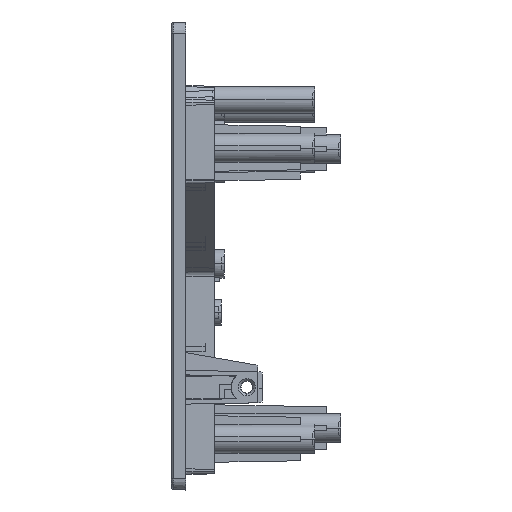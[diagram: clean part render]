
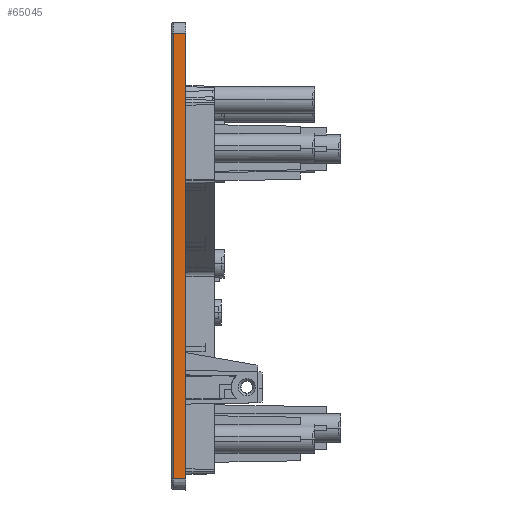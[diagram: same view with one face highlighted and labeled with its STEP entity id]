
A CAD part, left-side view. The second image highlights one B-rep face of the part: STEP entity #65045.
In plain terms, the highlighted planar face has unit normal (-0.999, 0.035, 0).
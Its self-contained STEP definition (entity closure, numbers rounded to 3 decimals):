
#5351=DIRECTION('',(0.,0.,1.));
#5352=VECTOR('',#5351,92.658);
#5353=CARTESIAN_POINT('',(-390.186,27.,-46.529));
#5354=LINE('',#5353,#5352);
#23429=DIRECTION('',(-0.035,-0.999,0.));
#23430=VECTOR('',#23429,2.519);
#23431=CARTESIAN_POINT('',(-390.098,29.517,
-46.529));
#23432=LINE('',#23431,#23430);
#23433=DIRECTION('',(0.,0.,1.));
#23434=VECTOR('',#23433,92.658);
#23435=CARTESIAN_POINT('',(-390.098,29.517,
-46.529));
#23436=LINE('',#23435,#23434);
#23437=DIRECTION('',(0.035,0.999,0.));
#23438=VECTOR('',#23437,2.519);
#23439=CARTESIAN_POINT('',(-390.186,27.,46.129));
#23440=LINE('',#23439,#23438);
#28151=CARTESIAN_POINT('',(-390.186,27.,46.129));
#28152=VERTEX_POINT('',#28151);
#28213=CARTESIAN_POINT('',(-390.098,29.517,
46.129));
#28215=VERTEX_POINT('',#28213);
#29100=CARTESIAN_POINT('',(-390.098,29.517,
-46.529));
#29102=VERTEX_POINT('',#29100);
#29103=CARTESIAN_POINT('',(-390.186,27.,-46.529));
#29104=VERTEX_POINT('',#29103);
#65032=CARTESIAN_POINT('',(-390.186,27.,46.129));
#65033=DIRECTION('',(-0.999,0.035,0.));
#65034=DIRECTION('',(0.035,0.999,0.));
#65035=AXIS2_PLACEMENT_3D('',#65032,#65033,#65034);
#65036=PLANE('',#65035);
#65037=ORIENTED_EDGE('',*,*,#33950,.F.);
#65039=ORIENTED_EDGE('',*,*,#65038,.F.);
#65040=ORIENTED_EDGE('',*,*,#65023,.T.);
#65042=ORIENTED_EDGE('',*,*,#65041,.F.);
#65043=EDGE_LOOP('',(#65037,#65039,#65040,#65042));
#65044=FACE_OUTER_BOUND('',#65043,.F.);
#65045=ADVANCED_FACE('',(#65044),#65036,.T.);
#33950=EDGE_CURVE('',#29104,#28152,#5354,.T.);
#65023=EDGE_CURVE('',#29102,#28215,#23436,.T.);
#65038=EDGE_CURVE('',#29102,#29104,#23432,.T.);
#65041=EDGE_CURVE('',#28152,#28215,#23440,.T.);
